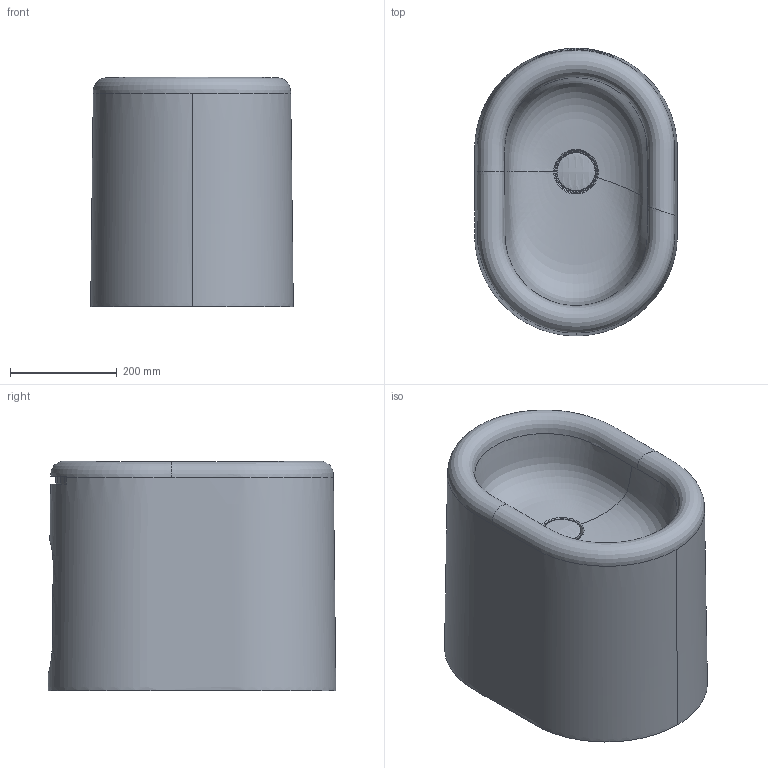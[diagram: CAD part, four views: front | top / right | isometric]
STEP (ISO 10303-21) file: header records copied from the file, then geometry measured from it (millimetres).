
FILE_DESCRIPTION(/* description */ (''),/* implementation_level */ '2;1');
FILE_NAME(/* name */ 'ITBI',/* time_stamp */ '2024-12-13T17:22:27+01:00',/* author */ (''),/* organization */ (''),/* preprocessor_version */ 'ST-DEVELOPER v16.5',/* originating_system */ 'Rhino 7.27',/* authorisation */ '');
FILE_SCHEMA (('CONFIG_CONTROL_DESIGN'));
Length unit declared in the file: millimetre
Products named in the file (1): Document
Bounding box: 380.07 x 539.82 x 431 mm (x, y, z)
Volume: 60321856.1 mm3; surface area: 1099234.7 mm2
Topology: 2 solids, 2 shells, 42 faces, 112 edges, 73 vertices
Faces by surface type: bspline 24, cylinder 10, plane 8
Entity records: 38915 total; most frequent: CARTESIAN_POINT 38134, ORIENTED_EDGE 218, EDGE_CURVE 109, B_SPLINE_CURVE_WITH_KNOTS 85, VERTEX_POINT 72, EDGE_LOOP 43, ADVANCED_FACE 42, FACE_OUTER_BOUND 42
